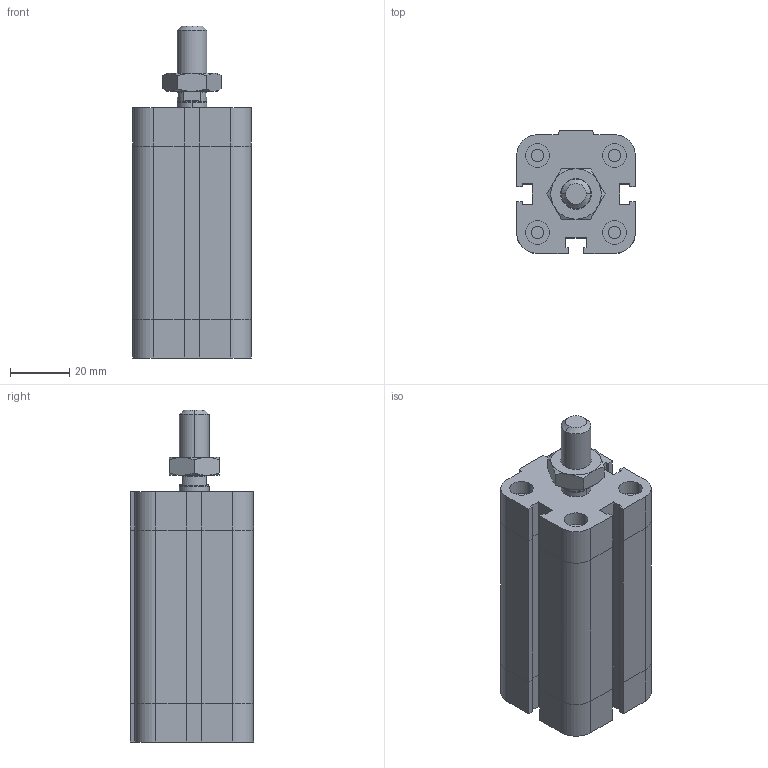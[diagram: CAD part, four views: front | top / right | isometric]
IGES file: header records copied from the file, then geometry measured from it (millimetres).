
Global section: file name: No Iges File Name specified; native system: Autodesk Inventor 2009; preprocessor: AutoDesk Inventor Iges Exporter R2009; author: rivolro1; date: 20081219.161718; units: millimetre
Bounding box: 40 x 41.5 x 112 mm (x, y, z)
Volume: 124204 mm3; surface area: 27782.7 mm2
Topology: 3 solids, 3 shells, 216 faces, 472 edges, 282 vertices
Faces by surface type: plane 121, bspline 37, cylinder 20, cone 20, revolution 18
